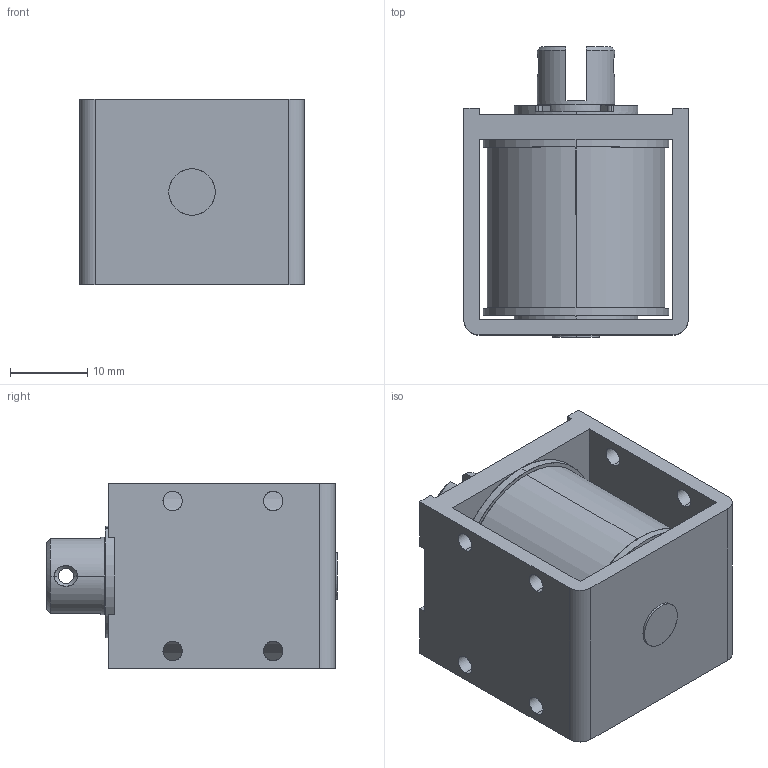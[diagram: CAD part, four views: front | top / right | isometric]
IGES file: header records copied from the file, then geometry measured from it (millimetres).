
Start section: SolidWorks IGES file using analytic representation for surfaces
Global section: file name: L:\カタログ\web用3Dデータ\CE1029\3D_CE1029\w_ce1029.IGS; native system: SolidWorks 2014; preprocessor: SolidWorks 2014; author: jiba; date: 140724.112157; units: millimetre
Bounding box: 29 x 37.6 x 24 mm (x, y, z)
Surface area: 9226.6 mm2 (no closed solid volume)
Topology: 0 solids, 0 shells, 131 faces, 2335 edges, 2335 vertices
Faces by surface type: revolution 76, bspline 55
